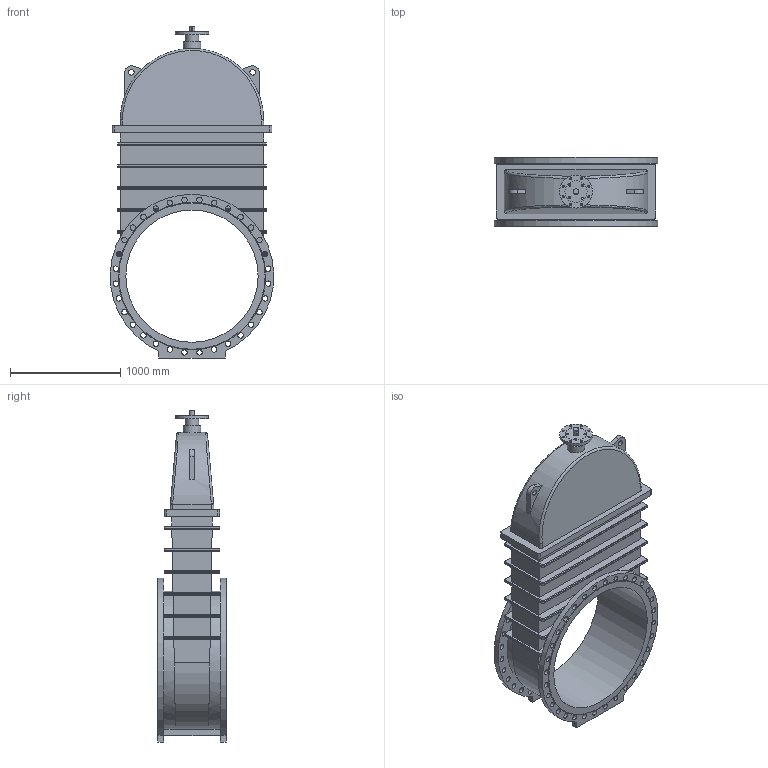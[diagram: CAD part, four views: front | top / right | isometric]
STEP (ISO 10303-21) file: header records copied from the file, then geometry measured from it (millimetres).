
FILE_DESCRIPTION(('STEP AP203'), '1');
FILE_NAME('Çàäâèæêà 47GVA.Z DN1200 PN16 áåç èñïîëíèò. ìåõ.', '', ('UNSPECIFIED'), ('UNSPECIFIED'), 'ASCON STEP Converter 1.6', 'ASCON Math Kernel', '');
FILE_SCHEMA(('CONFIG_CONTROL_DESIGN'));
Length unit declared in the file: millimetre
Bounding box: 1483.95 x 630 x 3012.5 mm (x, y, z)
Volume: 833739487.1 mm3; surface area: 14926363.7 mm2
Topology: 1 solids, 1 shells, 380 faces, 968 edges, 612 vertices
Faces by surface type: cylinder 193, plane 135, bspline 50, cone 2
Full cylindrical faces by diameter (mm): 18 x8, 20 x4, 49 x64, 50 x3, 120 x1, 160 x1, 200 x1, 300 x1, 1200 x1
Entity records: 19512 total; most frequent: CARTESIAN_POINT 7625, ORIENTED_EDGE 1764, DIRECTION 1693, EDGE_CURVE 882, EDGE_LOOP 646, AXIS2_PLACEMENT_3D 640, VERTEX_POINT 612, FACE_BOUND 475
